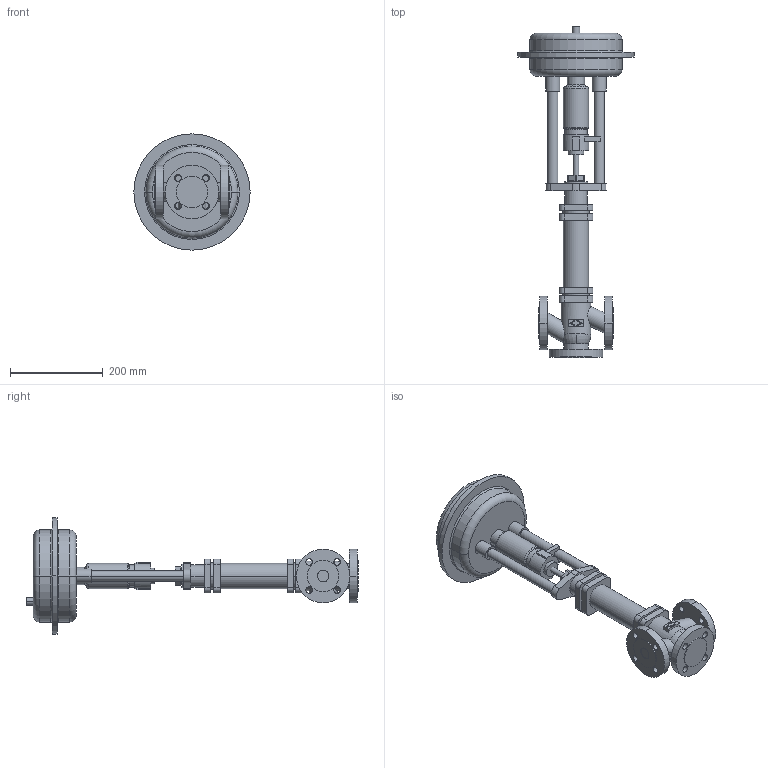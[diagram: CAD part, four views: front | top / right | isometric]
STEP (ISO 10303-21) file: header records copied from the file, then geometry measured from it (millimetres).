
FILE_DESCRIPTION(('OneSpaceDesigner STEP Export'),'2;1');
FILE_NAME('c000000745.stp','2006-09-20T11:29:31',(''),(''),'OneSpace Designer STEP processor for AP214 (Solid Model)','OneSpace Designer 13.20A 18-Aug-2005 (C) CoCreate Software GmbH','');
FILE_SCHEMA(('AUTOMOTIVE_DESIGN { 1 0 10303 214 1 1 1 1 }'));
Length unit declared in the file: millimetre
Products named in the file (2): 1; 2
Bounding box: 250 x 714 x 250 mm (x, y, z)
Volume: 5271054 mm3; surface area: 411833.7 mm2
Topology: 2 solids, 2 shells, 236 faces, 573 edges, 375 vertices
Faces by surface type: cylinder 118, plane 96, torus 18, cone 4
Entity records: 6597 total; most frequent: CARTESIAN_POINT 1386, ORIENTED_EDGE 1146, DIRECTION 978, EDGE_CURVE 573, VERTEX_POINT 375, AXIS2_PLACEMENT_3D 352, EDGE_LOOP 294, VECTOR 274
